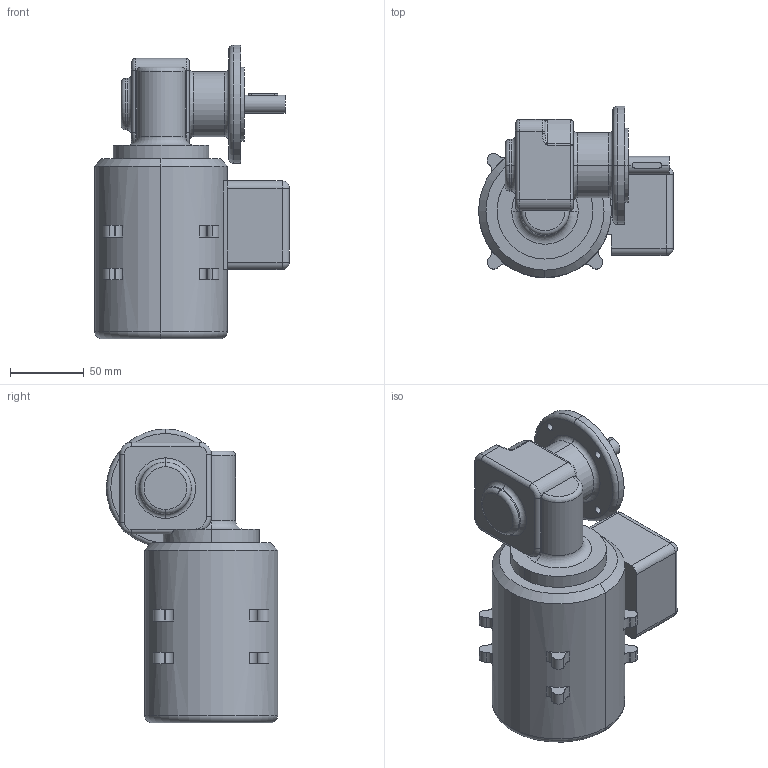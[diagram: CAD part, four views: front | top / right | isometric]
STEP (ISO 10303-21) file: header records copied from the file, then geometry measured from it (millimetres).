
FILE_DESCRIPTION (( 'STEP AP203' ), '1' );
FILE_NAME ('SN5FR-45W-B.STEP', '2007-09-13T06:19:08', ( ' ' ), ( ' ' ), 'SwSTEP 2.0', 'SolidWorks 2006233', '' );
FILE_SCHEMA (( 'CONFIG_CONTROL_DESIGN' ));
Length unit declared in the file: millimetre
Products named in the file (3): SN5FR-45W-B; SN5FR_Standard; SRF45Wof_Standard
Assembly tree (2 placements, depth 2):
  SN5FR-45W-B
    SN5FR_Standard
    SRF45Wof_Standard
Bounding box: 132 x 116 x 199 mm (x, y, z)
Volume: 1215752.4 mm3; surface area: 97601 mm2
Topology: 2 solids, 2 shells, 198 faces, 478 edges, 292 vertices
Faces by surface type: cylinder 91, plane 63, torus 30, sphere 8, bspline 4, cone 2
Entity records: 6576 total; most frequent: CARTESIAN_POINT 1527, DIRECTION 1093, ORIENTED_EDGE 944, EDGE_CURVE 472, AXIS2_PLACEMENT_3D 446, VERTEX_POINT 292, CIRCLE 247, EDGE_LOOP 220
